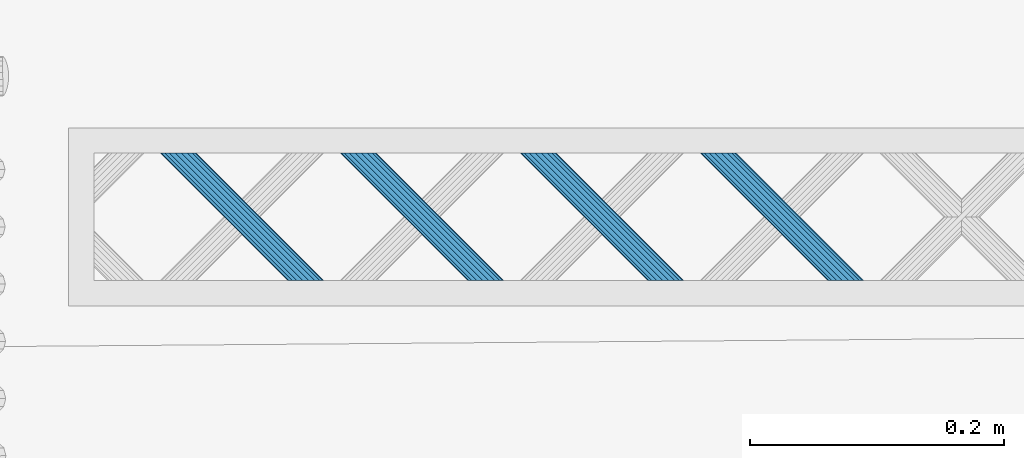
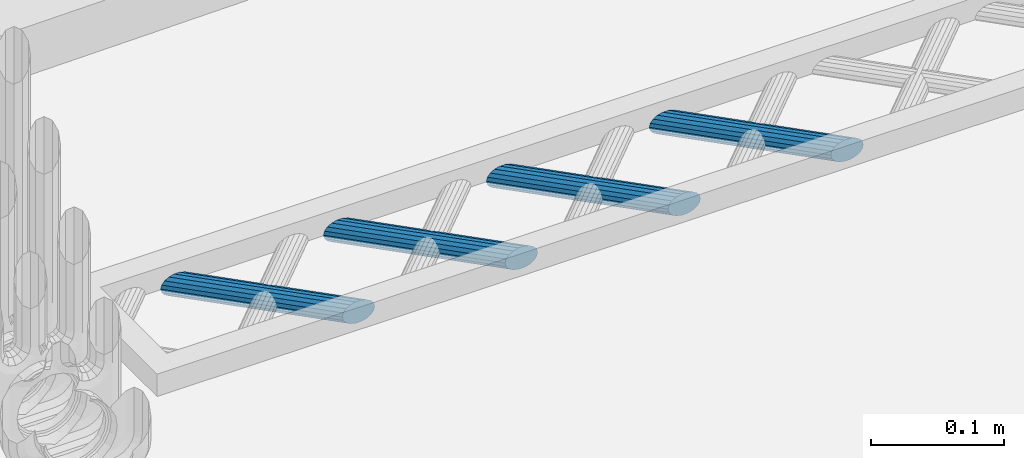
# One storey, part 66 of 133: 4 members, 1 element without a shape of its own.
"""IFC2X3 building model written with IfcOpenShell, lengths in centimetres."""

from ifc_helpers import new_model, entity, si_unit, converted_unit, direction, frame, origin, origin_with_axes, place, context, subcontext, project, spatial, faceted_brep, material, type_object, element, aggregate, save


model = new_model("IFC2X3")

# Units and contexts
model_context = context("Model", 3, precision=0.0001, world=origin(), true_north=direction((0.225632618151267, 0.974212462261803, 0.0)))
body_context = subcontext(model_context, "Body", "Model", "MODEL_VIEW")
ifc_project = project(units=[si_unit("LENGTHUNIT", "METRE", prefix="CENTI"), si_unit("AREAUNIT", "SQUARE_METRE", prefix="CENTI"), si_unit("VOLUMEUNIT", "CUBIC_METRE", prefix="CENTI"), converted_unit("PLANEANGLEUNIT", "DEGREE", entity("IfcRatioMeasure", 0.0174532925), si_unit("PLANEANGLEUNIT", "RADIAN"), dimensions=[0, 0, 0, 0, 0, 0, 0])], contexts=[model_context])

# Site, building, storey
site_placement = place(None, origin_with_axes())
site = spatial("IfcSite", under=ifc_project, at=site_placement, Name="Default Site", CompositionType="ELEMENT")
building_placement = place(site_placement, origin_with_axes())
building = spatial("IfcBuilding", under=site, at=building_placement, Name="Default Building", CompositionType="ELEMENT")
storey_placement = place(building_placement, frame((0.0, 0.0, -291.400371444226), z_axis=(0.0, 0.0, 1.0), x_axis=(1.0, 0.0, 0.0)))
storey = spatial("IfcBuildingStorey", under=building, at=storey_placement, Name="Rez-de-Jardin", CompositionType="ELEMENT", Elevation=-291.400371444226)

# Assembly, members
building_element_proxy_type = type_object("IfcBuildingElementProxyType", Name="Type Object", PredefinedType="NOTDEFINED")
assembly_placement = place(storey_placement, frame((-251.995147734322, 552.177521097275, 0.0), z_axis=(0.0, 1.0, -2.38697950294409e-15), x_axis=(1.0, 0.0, 0.0)))
assembly = element("IfcElementAssembly", 1, at=assembly_placement, inside=storey, type_object=building_element_proxy_type, Name="Panneau 92047", ObjectType="Precast panel", PredefinedType="USERDEFINED")
ifc_material = material(Name="Aluminium satiné")
member_1_placement = place(assembly_placement, frame((59.7421407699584, 0.342020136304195, 1.99999995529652), z_axis=(1.16937776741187e-15, 1.43218081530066e-15, -1.0), x_axis=(-0.632457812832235, -0.774594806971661, -1.84894192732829e-15)))
member_1 = element("IfcMember", 2, at=member_1_placement, material=ifc_material, Name="4294966743", context=body_context, shape_type="Brep", body=[
    faceted_brep([(5.55111512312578e-15, -1.66533453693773e-14, -1.97758476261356e-14), (-0.388290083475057, -1.66533453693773e-14, -1.90579218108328e-14), (-0.799166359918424, -0.150246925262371, -1.82982354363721e-14), (-1.18307325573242, -0.432621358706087, -1.75884138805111e-14), (-1.49370756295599, -0.813066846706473, -1.70140690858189e-14), (-1.69359804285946, -1.24569095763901, -1.66444831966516e-14), (-1.75863665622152, -1.67831484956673, -1.65242305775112e-14), (-1.68098087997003, -2.05876033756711, -1.66678115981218e-14), (-1.46999510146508, -2.34113750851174, -1.70579120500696e-14), (-1.15112683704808, -2.49138695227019, -1.76474809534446e-14), (-0.762836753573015, -2.49138695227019, -1.83654067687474e-14), (-0.351960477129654, -2.34114002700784, -1.91250931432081e-14), (0.0319464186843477, -2.05876559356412, -1.98349146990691e-14), (0.342580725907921, -1.67832010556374, -2.04092594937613e-14), (0.54247120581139, -1.24569599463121, -2.07788453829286e-14), (0.607509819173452, -0.813072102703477, -2.0899098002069e-14), (0.529854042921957, -0.432626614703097, -2.07555169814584e-14), (0.318868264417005, -0.150249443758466, -2.03654165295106e-14), (6.64344601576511, 7.59569816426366, -9.99999977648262), (6.85443179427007, 7.31332099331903, -9.99999977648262), (6.93208757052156, 6.93287550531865, -9.99999977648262), (6.86704707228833, 6.50024930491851, -9.99999977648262), (6.66715659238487, 6.06762519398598, -9.99999977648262), (6.35652605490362, 5.68718432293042, -9.99999977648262), (5.97261915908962, 5.40480988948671, -9.99999977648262), (5.56174288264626, 5.25456296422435, -9.99999977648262), (5.1734527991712, 5.25456296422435, -9.99999977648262), (4.8545845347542, 5.40481240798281, -9.99999977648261), (4.64359875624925, 5.68718957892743, -9.99999977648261), (4.56594297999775, 6.06763506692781, -9.99999977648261), (4.63098159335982, 6.50025895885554, -9.99999977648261), (4.83087207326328, 6.93288306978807, -9.99999977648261), (5.14150261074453, 7.31332394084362, -9.99999977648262), (5.52540950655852, 7.59569837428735, -9.99999977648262), (5.93628766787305, 7.74594760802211, -9.99999977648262), (6.32457775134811, 7.74594760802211, -9.99999977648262), (0.318868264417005, -0.150249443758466, -2.0122792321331e-14), (0.529854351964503, -0.432626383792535, 3.7431847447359e-07), (6.85443225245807, 7.31332133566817, -9.99999922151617), (6.64344616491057, 7.59569827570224, -9.99999959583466), (0.529854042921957, -0.432626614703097, -2.04697370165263e-14), (0.607510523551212, -0.813071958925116, 5.56859168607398e-07), (6.93208845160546, 6.93287568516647, -9.99999907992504), (6.85443197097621, 7.31332102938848, -9.99999963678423), (0.607509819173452, -0.813072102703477, -2.08166817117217e-14), (0.542470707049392, -1.24569591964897, -2.57365088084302e-07), (6.86704791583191, 6.50024917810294, -9.99999934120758), (6.93208771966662, 6.93287548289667, -9.99999969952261), (0.54247120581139, -1.24569599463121, -2.08166817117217e-14), (0.342580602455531, -1.67832004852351, -3.38953855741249e-08), (6.66715718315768, 6.06762492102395, -9.99999961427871), (6.86704778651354, 6.50024897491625, -9.99999958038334), (0.342580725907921, -1.67832010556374, -2.0122792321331e-14), (0.0319464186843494, -2.05876559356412, -1.94289029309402e-14), (6.66715659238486, 6.06762519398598, -9.99999977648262), (0.0319464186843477, -2.05876559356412, -1.94289029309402e-14), (-0.351960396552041, -2.34114013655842, -3.3895384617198e-08), (5.97261960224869, 5.40480928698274, -9.99999996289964), (6.35652641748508, 5.68718382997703, -9.99999992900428), (-0.351960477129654, -2.34114002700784, -1.90819582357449e-14), (-0.762836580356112, -2.49138742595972, -2.57365085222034e-07), (5.56174341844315, 5.25456149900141, -10.0000005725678), (5.97261952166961, 5.40480889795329, -10.0000003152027), (-0.762836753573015, -2.49138695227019, -1.83880688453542e-14), (-1.15112683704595, -2.49138623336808, 5.56859171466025e-07), (5.17345279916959, 5.25456242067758, -10.0000001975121), (5.56174288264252, 5.25456170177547, -10.0000007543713), (-1.15112683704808, -2.49138695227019, -1.73472347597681e-14), (-1.46999493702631, -2.34113715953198, 3.74318477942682e-07), (4.85458414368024, 5.40481157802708, -10.0000006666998), (5.17345224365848, 5.25456178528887, -10.0000010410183), (-1.46999510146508, -2.34113750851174, -1.66533453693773e-14), (-1.68098118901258, -2.05876056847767, -3.74318511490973e-07), (4.6435974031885, 5.68718856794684, -10.0000014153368), (4.85458349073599, 5.40481162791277, -10.0000010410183), (-1.68098087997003, -2.05876033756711, -1.66533453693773e-14), (-1.75863736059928, -1.67831499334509, -5.56859205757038e-07), (4.56594103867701, 6.06763467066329, -10.0000013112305), (4.64359751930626, 5.68718932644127, -10.0000007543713), (-1.75863665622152, -1.67831484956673, -1.6306400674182e-14), (-1.69359754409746, -1.24569103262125, 2.5736504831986e-07), (4.63098104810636, 6.50025904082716, -10.0000000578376), (4.5659419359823, 6.06763522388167, -10.0000003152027), (-1.69359804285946, -1.24569095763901, -1.6306400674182e-14), (-1.4937074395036, -0.813066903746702, 3.38953504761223e-08), (4.83087164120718, 6.93288326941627, -9.99999989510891), (4.63098103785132, 6.50025921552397, -9.99999992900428), (-1.49370756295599, -0.813066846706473, -1.66533453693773e-14), (-1.18307325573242, -0.432621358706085, -1.73472347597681e-14), (5.14150261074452, 7.31332394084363, -9.99999977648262), (4.83087207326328, 6.93288306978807, -9.99999977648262), (-1.18307325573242, -0.432621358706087, -1.73472347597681e-14), (-0.799166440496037, -0.150246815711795, 3.38953477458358e-08), (5.52540895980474, 7.59569911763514, -9.99999954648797), (5.14150214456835, 7.31332457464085, -9.99999958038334), (-0.799166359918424, -0.150246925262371, -1.80411241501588e-14), (-0.388290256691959, 4.73689511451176e-07, 2.57365046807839e-07), (5.93628744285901, 7.74594822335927, -9.99999944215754), (5.52540904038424, 7.59569964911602, -9.99999908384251), (-0.388290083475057, -1.66533453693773e-14, -1.87350135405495e-14), (-2.12407422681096e-12, -7.18902127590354e-07, -5.56859208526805e-07), (6.32457775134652, 7.74594706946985, -10.0000001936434), (5.93628766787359, 7.74594778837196, -9.99999963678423), (0.318868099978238, -0.150249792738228, -3.74318515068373e-07), (6.64344593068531, 7.59569798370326, -9.99999997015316), (6.32457783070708, 7.74594777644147, -9.99999959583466)], [[[0, 1, 2, 3, 4, 5, 6, 7, 8, 9, 10, 11, 12, 13, 14, 15, 16, 17]], [[18, 19, 20, 21, 22, 23, 24, 25, 26, 27, 28, 29, 30, 31, 32, 33, 34, 35]], [[36, 37, 38, 39]], [[40, 41, 42, 43]], [[44, 45, 46, 47]], [[48, 49, 50, 51]], [[52, 53, 23, 54]], [[55, 56, 57, 58]], [[59, 60, 61, 62]], [[63, 64, 65, 66]], [[67, 68, 69, 70]], [[71, 72, 73, 74]], [[75, 76, 77, 78]], [[79, 80, 81, 82]], [[83, 84, 85, 86]], [[87, 88, 89, 90]], [[91, 92, 93, 94]], [[95, 96, 97, 98]], [[99, 100, 101, 102]], [[0, 103, 104, 105]]]),
])
member_2_placement = place(assembly_placement, frame((45.6000059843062, 0.342020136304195, 1.99999995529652), z_axis=(1.16937776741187e-15, 1.43218081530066e-15, -1.0), x_axis=(-0.632457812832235, -0.774594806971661, -1.84894192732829e-15)))
member_2 = element("IfcMember", 3, at=member_2_placement, material=ifc_material, Name="4294966742", context=body_context, shape_type="Brep", body=[
    faceted_brep([(1.11022302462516e-14, 6.10622663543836e-14, 5.27355936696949e-14), (-0.388290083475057, 6.10622663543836e-14, 5.34535194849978e-14), (-0.799166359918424, -0.150246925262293, 5.42132058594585e-14), (-1.18307325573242, -0.432621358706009, 5.49230274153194e-14), (-1.49370567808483, -0.813064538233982, 5.54973687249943e-14), (-1.6935961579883, -1.24568864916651, 5.58669546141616e-14), (-1.75863665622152, -1.67831484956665, 5.59872107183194e-14), (-1.68097899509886, -2.05875802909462, 5.58436262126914e-14), (-1.46999321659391, -2.34113520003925, 5.54535257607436e-14), (-1.15112495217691, -2.4913846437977, 5.48639568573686e-14), (-0.762836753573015, -2.49138695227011, 5.41460345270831e-14), (-0.351958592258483, -2.34113771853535, 5.33863446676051e-14), (0.0319483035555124, -2.05876328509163, 5.26765231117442e-14), (0.342580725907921, -1.67832010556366, 5.21021818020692e-14), (0.54247120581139, -1.24569599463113, 5.17325959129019e-14), (0.607509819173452, -0.813072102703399, 5.16123432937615e-14), (0.529854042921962, -0.432626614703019, 5.17559243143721e-14), (0.318868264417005, -0.150249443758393, 5.21460247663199e-14), (6.64344601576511, 7.59569816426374, -9.99999977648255), (6.85443179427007, 7.31332099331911, -9.99999977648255), (6.93208945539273, 6.93287781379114, -9.99999977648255), (6.8670489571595, 6.500251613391, -9.99999977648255), (6.66715847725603, 6.06762750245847, -9.99999977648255), (6.35652605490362, 5.6871843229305, -9.99999977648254), (5.97261915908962, 5.40480988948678, -9.99999977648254), (5.5617409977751, 5.25456065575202, -9.99999977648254), (5.17345279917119, 5.25456296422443, -9.99999977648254), (4.8545845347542, 5.40481240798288, -9.99999977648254), (4.64359875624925, 5.68718957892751, -9.99999977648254), (4.56594109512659, 6.06763275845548, -9.99999977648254), (4.63098159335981, 6.50025895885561, -9.99999977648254), (4.83087207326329, 6.93288306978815, -9.99999977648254), (5.14150449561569, 7.31332624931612, -9.99999977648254), (5.52541139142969, 7.59570068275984, -9.99999977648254), (5.93628955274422, 7.7459499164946, -9.99999977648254), (6.32457775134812, 7.74594760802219, -9.99999977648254), (0.318868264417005, -0.150249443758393, 5.20417042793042e-14), (0.529854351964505, -0.43262638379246, 3.74318542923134e-07), (6.85443225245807, 7.31332133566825, -9.9999992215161), (6.64344616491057, 7.59569827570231, -9.99999959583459), (0.529854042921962, -0.432626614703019, 5.20417042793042e-14), (0.607510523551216, -0.813071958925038, 5.56859243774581e-07), (6.93208892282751, 6.93287770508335, -10.0000001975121), (6.85443197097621, 7.31332102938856, -9.99999963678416), (0.607509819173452, -0.813072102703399, 5.16947595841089e-14), (0.542470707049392, -1.24569591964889, -2.57365015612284e-07), (6.86704860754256, 6.50025166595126, -9.9999999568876), (6.93208841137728, 6.932877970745, -10.0000003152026), (0.54247120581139, -1.24569599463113, 5.16947595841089e-14), (0.342580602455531, -1.67832004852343, -3.38953134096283e-08), (6.66715843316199, 6.06762752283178, -9.9999997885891), (6.86704903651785, 6.50025157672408, -9.99999975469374), (0.342580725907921, -1.67832010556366, 5.20417042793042e-14), (0.0319483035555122, -2.05876328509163, 5.27355936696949e-14), (6.35652605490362, 5.6871843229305, -9.99999977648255), (0.0319483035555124, -2.05876328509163, 5.27355936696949e-14), (-0.351958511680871, -2.34113782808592, -3.38953122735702e-08), (5.97261918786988, 5.40480985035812, -9.9999997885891), (6.35652600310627, 5.68718439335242, -9.99999975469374), (-0.351958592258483, -2.34113771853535, 5.34294830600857e-14), (-0.762836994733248, -2.4913862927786, 3.58315082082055e-07), (5.56174070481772, 5.25456145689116, -9.9999993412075), (5.97261910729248, 5.40481003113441, -9.99999969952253), (-0.762836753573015, -2.49138695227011, 5.41233724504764e-14), (-1.15112495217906, -2.49138536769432, -5.60727864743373e-07), (5.17345279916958, 5.25456242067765, -10.0000001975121), (5.56174099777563, 5.25456083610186, -9.99999963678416), (-1.15112495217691, -2.4913846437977, 5.51642065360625e-14), (-1.46999305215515, -2.34113485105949, 3.7431854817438e-07), (4.85458477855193, 5.404812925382, -9.9999992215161), (5.17345287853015, 5.25456313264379, -9.99999959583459), (-1.46999321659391, -2.34113520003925, 5.55111512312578e-14), (-1.68097930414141, -2.05875826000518, -3.74318437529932e-07), (4.64359859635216, 5.68718945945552, -9.99999997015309), (4.85458468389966, 5.40481251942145, -9.99999959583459), (-1.68097899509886, -2.05875802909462, 5.58580959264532e-14), (-1.75863594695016, -1.6783147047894, 5.60727977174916e-07), (4.56594198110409, 6.06763293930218, -9.99999907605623), (4.64359893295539, 5.68718961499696, -9.99999963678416), (-1.75863665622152, -1.67831484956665, 5.62050406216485e-14), (-1.69359685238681, -1.24568854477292, -3.5831497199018e-07), (4.63098104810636, 6.50025904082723, -10.0000000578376), (4.56594124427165, 6.0676327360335, -9.99999969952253), (-1.6935961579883, -1.24568864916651, 5.62050406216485e-14), (-1.49370555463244, -0.813064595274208, 3.38954210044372e-08), (4.83087227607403, 6.93288297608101, -9.99999972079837), (4.63098167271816, 6.5002589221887, -9.99999975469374), (-1.49370567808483, -0.813064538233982, 5.55111512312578e-14), (-1.18307325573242, -0.432621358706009, 5.48172618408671e-14), (5.14150449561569, 7.31332624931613, -9.99999977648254), (4.83087207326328, 6.93288306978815, -9.99999977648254), (-0.799166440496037, -0.150246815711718, 3.38954202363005e-08), (5.52541125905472, 7.59570086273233, -9.99999972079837), (5.14150444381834, 7.31332631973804, -9.99999975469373), (-0.799166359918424, -0.150246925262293, 5.44703171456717e-14), (-0.388290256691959, 4.73689589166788e-07, 2.57365119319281e-07), (5.93628974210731, 7.74594939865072, -10.0000000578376), (5.52541133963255, 7.59570082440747, -9.99999969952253), (-0.388290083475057, 6.10622663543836e-14, 5.3776427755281e-14), (-2.11852311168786e-12, -7.18902049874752e-07, -5.56859136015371e-07), (6.32457775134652, 7.74594706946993, -10.0000001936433), (5.93628955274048, 7.74594865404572, -10.0000007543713), (0.31886809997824, -0.150249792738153, -3.74318439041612e-07), (6.64344593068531, 7.59569798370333, -9.99999997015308), (6.32457783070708, 7.74594777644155, -9.99999959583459)], [[[0, 1, 2, 3, 4, 5, 6, 7, 8, 9, 10, 11, 12, 13, 14, 15, 16, 17]], [[18, 19, 20, 21, 22, 23, 24, 25, 26, 27, 28, 29, 30, 31, 32, 33, 34, 35]], [[36, 37, 38, 39]], [[40, 41, 42, 43]], [[44, 45, 46, 47]], [[48, 49, 50, 51]], [[52, 53, 54, 22]], [[55, 56, 57, 58]], [[59, 60, 61, 62]], [[63, 64, 65, 66]], [[67, 68, 69, 70]], [[71, 72, 73, 74]], [[75, 76, 77, 78]], [[79, 80, 81, 82]], [[83, 84, 85, 86]], [[87, 88, 89, 90]], [[88, 91, 92, 93]], [[94, 95, 96, 97]], [[98, 99, 100, 101]], [[0, 102, 103, 104]]]),
])
member_3_placement = place(assembly_placement, frame((31.4578711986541, 0.342020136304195, 1.99999995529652), z_axis=(1.16937492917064e-15, 1.4321947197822e-15, -1.0), x_axis=(-0.632453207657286, -0.774598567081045, -1.84895090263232e-15)))
member_3 = element("IfcMember", 4, at=member_3_placement, material=ifc_material, Name="4294966741", context=body_context, shape_type="Brep", body=[
    faceted_brep([(5.55111512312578e-15, -5.55111512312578e-15, 1.25940924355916e-13), (-0.388288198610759, -5.55111512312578e-15, 1.26658850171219e-13), (-0.799165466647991, -0.150251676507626, 1.27418542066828e-13), (-1.18307068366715, -0.432628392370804, 1.2812836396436e-13), (-1.49370084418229, -0.813073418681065, 1.2870270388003e-13), (-1.6935887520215, -1.24569871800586, 1.29072286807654e-13), (-1.75862479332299, -1.67832299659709, 1.29192535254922e-13), (-1.68096675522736, -2.05876802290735, 1.29048949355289e-13), (-1.46997929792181, -2.34114393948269, 1.2865884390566e-13), (-1.15111014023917, -2.49139148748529, 1.28069270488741e-13), (-0.762820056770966, -2.49138917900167, 1.27351341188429e-13), (-0.351944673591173, -2.34113981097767, 1.26591652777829e-13), (0.0319605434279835, -2.05876309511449, 1.25881830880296e-13), (0.342590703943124, -1.67831806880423, 1.25307490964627e-13), (0.542478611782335, -1.24569276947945, 1.24937908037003e-13), (0.607516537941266, -0.813066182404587, 1.24817656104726e-13), (0.5298566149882, -0.432623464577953, 1.24961245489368e-13), (0.318869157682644, -0.150247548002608, 1.25351350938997e-13), (6.643400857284, 7.59573766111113, -9.99999977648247), (6.85438925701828, 7.31336289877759, -9.99999977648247), (6.93204823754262, 6.93291902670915, -9.99999977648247), (6.86701125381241, 6.5002935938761, -9.99999977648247), (6.6671233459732, 6.06766829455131, -9.99999977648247), (6.35649318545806, 5.68722326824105, -9.99999977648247), (5.97258702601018, 5.40484539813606, -9.99999977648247), (5.56171164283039, 5.25459603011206, -9.99999977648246), (5.17342250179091, 5.25459487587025, -9.99999977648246), (4.85455334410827, 5.40484242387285, -9.99999977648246), (4.64356588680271, 5.6872183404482, -9.99999977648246), (4.56590690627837, 6.06766221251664, -9.99999977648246), (4.63094294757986, 6.50028649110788, -9.99999977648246), (4.83083179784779, 6.93291294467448, -9.99999977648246), (5.14146195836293, 7.31335797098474, -9.99999977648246), (5.52536717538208, 7.59573468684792, -9.99999977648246), (5.9362435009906, 7.74598520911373, -9.99999977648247), (6.32453264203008, 7.74598636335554, -9.99999977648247), (0.318869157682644, -0.150247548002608, 1.25593979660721e-13), (0.529856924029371, -0.432623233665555, 3.74318617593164e-07), (6.85438911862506, 7.3133627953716, -9.99999994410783), (6.6434010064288, 7.59573777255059, -9.99999959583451), (0.5298566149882, -0.432623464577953, 1.25247034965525e-13), (0.607515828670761, -0.813066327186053, -5.60727797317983e-07), (6.93204770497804, 6.93291891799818, -10.000000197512), (6.8543887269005, 7.31336279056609, -10.0000001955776), (0.607516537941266, -0.813066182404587, 1.2490009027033e-13), (0.542479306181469, -1.24569287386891, 3.58315154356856e-07), (6.86701150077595, 6.50029355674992, -9.99999964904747), (6.93204838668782, 6.93291900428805, -9.99999969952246), (0.542478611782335, -1.24569276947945, 1.2490009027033e-13), (0.342590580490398, -1.67831801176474, -3.38952392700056e-08), (6.66712298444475, 6.06766846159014, -9.99999987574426), (6.86701101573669, 6.50029370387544, -9.99999984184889), (0.342590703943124, -1.67831806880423, 1.25593979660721e-13), (0.0319605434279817, -2.05876309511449, 1.25940924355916e-13), (0.0319605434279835, -2.05876309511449, 1.25940924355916e-13), (-0.351944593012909, -2.34113992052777, -3.3895238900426e-08), (5.97258705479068, 5.40484535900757, -9.99999978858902), (6.35649334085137, 5.68722305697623, -9.99999984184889), (-0.351944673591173, -2.34113981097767, 1.26634813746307e-13), (-0.762819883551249, -2.49138965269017, -2.57364936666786e-07), (5.56171176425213, 5.25459569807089, -9.99999995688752), (5.9725869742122, 5.40484553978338, -9.99999969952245), (-0.762820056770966, -2.49138917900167, 1.27328703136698e-13), (-1.15111014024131, -2.49139076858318, 5.56859313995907e-07), (5.17342250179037, 5.25459505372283, -9.99999963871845), (5.56171164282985, 5.2545962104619, -9.99999963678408), (-1.15111014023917, -2.49139148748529, 1.28369537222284e-13), (-1.46997913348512, -2.34114359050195, 3.74318624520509e-07), (4.85455327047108, 5.40484226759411, -9.99999994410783), (5.17342226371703, 5.25459437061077, -10.0000003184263), (-1.46997929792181, -2.34114393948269, 1.28716481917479e-13), (-1.68096706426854, -2.05876825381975, -3.74318364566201e-07), (4.64356513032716, 5.68721777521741, -10.0000006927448), (4.85455289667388, 5.40484208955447, -10.0000003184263), (-1.68096675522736, -2.05876802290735, 1.29063426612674e-13), (-1.75862549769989, -1.67832314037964, -5.56859058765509e-07), (4.56590637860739, 6.0676621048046, -10.0000001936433), (4.64356535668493, 5.68721823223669, -10.0000001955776), (-1.75862479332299, -1.67832299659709, 1.2941037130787e-13), (-1.69358825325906, -1.24569879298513, 2.57365194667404e-07), (4.63094359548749, 6.50028639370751, -9.99999944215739), (4.56590705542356, 6.06766219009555, -9.99999969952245), (-1.6935887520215, -1.24569871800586, 1.2941037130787e-13), (-1.49370072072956, -0.813073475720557, 3.38954941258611e-08), (4.83083168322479, 6.93291299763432, -9.99999980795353), (4.63094302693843, 6.50028645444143, -9.99999975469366), (-1.49370084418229, -0.813073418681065, 1.28716481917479e-13), (-1.18307068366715, -0.432628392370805, 1.28369537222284e-13), (-1.18307068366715, -0.432628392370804, 1.28369537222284e-13), (-0.799165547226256, -0.150251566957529, 3.38954938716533e-08), (5.52536725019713, 7.5957345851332, -9.99999980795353), (5.14146211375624, 7.31335775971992, -9.99999984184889), (-0.799165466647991, -0.150251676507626, 1.27675647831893e-13), (-0.388287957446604, -6.59490087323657e-07, -3.58314902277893e-07), (5.93624369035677, 7.74598469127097, -10.0000000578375), (5.52536733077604, 7.59573426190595, -10.0000000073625), (-0.388288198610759, -5.55111512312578e-15, 1.26981758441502e-13), (-2.15377828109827e-12, 7.2389661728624e-07, 5.60728047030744e-07), (6.32453264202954, 7.74598654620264, -9.99999963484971), (5.93624350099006, 7.74598538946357, -9.99999963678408), (0.318868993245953, -0.150247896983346, -3.74318366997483e-07), (6.64340077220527, 7.59573748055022, -9.99999997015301), (6.3245324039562, 7.74598585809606, -10.0000003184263)], [[[0, 1, 2, 3, 4, 5, 6, 7, 8, 9, 10, 11, 12, 13, 14, 15, 16, 17]], [[18, 19, 20, 21, 22, 23, 24, 25, 26, 27, 28, 29, 30, 31, 32, 33, 34, 35]], [[36, 37, 38, 39]], [[40, 41, 42, 43]], [[44, 45, 46, 47]], [[48, 49, 50, 51]], [[52, 53, 23, 22]], [[54, 55, 56, 57]], [[58, 59, 60, 61]], [[62, 63, 64, 65]], [[66, 67, 68, 69]], [[70, 71, 72, 73]], [[74, 75, 76, 77]], [[78, 79, 80, 81]], [[82, 83, 84, 85]], [[86, 87, 32, 31]], [[88, 89, 90, 91]], [[92, 93, 94, 95]], [[96, 97, 98, 99]], [[0, 100, 101, 102]]]),
])
member_4_placement = place(assembly_placement, frame((17.3157349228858, 0.342020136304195, 1.99999995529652), z_axis=(1.16937634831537e-15, 1.43218776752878e-15, -1.0), x_axis=(-0.632455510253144, -0.774596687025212, -1.84894641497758e-15)))
member_4 = element("IfcMember", 5, at=member_4_placement, material=ifc_material, Name="4294966740", context=body_context, shape_type="Brep", body=[
    faceted_brep([(-3.19189119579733e-14, 2.22044604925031e-14, 1.94289029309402e-14), (-0.388289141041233, 2.22044604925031e-14, 2.01468287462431e-14), (-0.799165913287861, -0.150249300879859, 2.09065178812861e-14), (-1.18307196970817, -0.43262487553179, 2.16163396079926e-14), (-1.49370326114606, -0.813068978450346, 2.21906802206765e-14), (-1.69359245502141, -1.24569368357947, 2.25602646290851e-14), (-1.75863072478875, -1.67831892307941, 2.26805169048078e-14), (-1.68097287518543, -2.05876302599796, 2.25369317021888e-14), (-1.46998625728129, -2.34113956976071, 2.21468287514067e-14), (-1.15111754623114, -2.4913880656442, 2.1557257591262e-14), (-0.762828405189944, -2.4913880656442, 2.08393317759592e-14), (-0.351951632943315, -2.34113876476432, 2.00796426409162e-14), (0.0319544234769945, -2.05876319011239, 1.93698209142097e-14), (0.342585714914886, -1.67831908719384, 1.87954803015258e-14), (0.54247490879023, -1.24569438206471, 1.84258958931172e-14), (0.607513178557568, -0.813069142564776, 1.83056436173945e-14), (0.529855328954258, -0.432625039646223, 1.84492288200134e-14), (0.31886871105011, -0.150248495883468, 1.88393317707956e-14), (6.64342343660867, 7.59571791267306, -9.99999977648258), (6.8544105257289, 7.31334194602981, -9.99999977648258), (6.93206837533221, 6.93289784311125, -9.99999977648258), (6.86703010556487, 6.50027260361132, -9.99999977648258), (6.66714044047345, 6.06764732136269, -9.99999977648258), (6.35650914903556, 5.68720321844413, -9.99999977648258), (5.97260309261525, 5.4048276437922, -9.99999977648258), (5.56172632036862, 5.25457834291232, -9.99999977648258), (5.17343717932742, 5.25457834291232, -9.99999977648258), (4.85456893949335, 5.40482741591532, -9.99999977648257), (4.64358185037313, 5.68720338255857, -9.99999977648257), (4.56592400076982, 6.06764748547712, -9.99999977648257), (4.63096227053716, 6.50027272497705, -9.99999977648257), (4.8308514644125, 6.93289743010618, -9.99999977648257), (5.14148275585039, 7.31334153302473, -9.99999977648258), (5.52538928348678, 7.59571768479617, -9.99999977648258), (5.93626605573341, 7.74596698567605, -9.99999977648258), (6.32455519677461, 7.74596698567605, -9.99999977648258), (0.31886871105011, -0.150248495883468, 1.90819582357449e-14), (0.529855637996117, -0.432624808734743, 3.74318511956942e-07), (6.85441068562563, 7.31334206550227, -9.99999958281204), (6.6434235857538, 7.59571802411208, -9.99999959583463), (0.529855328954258, -0.432625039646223, 1.87350135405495e-14), (0.607513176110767, -0.813069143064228, -1.93434787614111e-09), (6.93206819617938, 6.93289780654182, -9.99999991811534), (6.85441034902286, 7.31334190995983, -9.99999991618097), (0.607513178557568, -0.813069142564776, 1.83880688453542e-14), (0.542475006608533, -1.24569439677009, 5.0475000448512e-08), (6.86703005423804, 6.50027261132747, -9.99999980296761), (6.93206822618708, 6.93289786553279, -9.99999985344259), (0.54247490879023, -1.24569438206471, 1.83880688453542e-14), (0.342585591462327, -1.67831903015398, -3.38953464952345e-08), (6.66714039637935, 6.06764734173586, -9.99999978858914), (6.8670300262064, 6.50027264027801, -9.99999979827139), (0.342585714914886, -1.67831908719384, 1.90819582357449e-14), (0.0319544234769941, -2.05876319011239, 1.97758476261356e-14), (6.35650914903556, 5.68720321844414, -9.99999977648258), (0.0319544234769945, -2.05876319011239, 1.97758476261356e-14), (-0.351951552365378, -2.34113887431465, -3.38953448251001e-08), (5.97260312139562, 5.40482760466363, -9.99999978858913), (6.356509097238, 5.68720328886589, -9.99999975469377), (-0.351951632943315, -2.34113876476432, 2.0122792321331e-14), (-0.762828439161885, -2.49138797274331, 5.04750015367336e-08), (5.56172623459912, 5.25457857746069, -9.99999964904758), (5.97260304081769, 5.40482778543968, -9.99999969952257), (-0.762828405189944, -2.4913880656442, 2.08166817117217e-14), (-1.15111754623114, -2.49138806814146, -1.93434443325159e-09), (5.17343717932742, 5.25457852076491, -9.99999963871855), (5.56172632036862, 5.25457852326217, -9.99999963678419), (-1.15111754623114, -2.4913880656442, 2.18575157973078e-14), (-1.46998609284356, -2.34113922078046, 3.74318516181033e-07), (4.85456902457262, 5.40482759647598, -9.99999958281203), (5.17343725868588, 5.25457851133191, -9.99999959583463), (-1.46998625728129, -2.34113956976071, 2.25514051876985e-14), (-1.68097318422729, -2.05876325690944, -3.74318471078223e-07), (4.6435816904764, 5.68720326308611, -9.99999997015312), (4.85456879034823, 5.4048273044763, -9.99999995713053), (-1.68097287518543, -2.05876302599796, 2.25514051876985e-14), (-1.75863072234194, -1.67831892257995, 1.93439067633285e-09), (4.56592417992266, 6.06764752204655, -9.99999963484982), (4.64358202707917, 5.68720341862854, -9.99999963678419), (-1.75863072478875, -1.67831892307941, 2.28983498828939e-14), (-1.69359255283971, -1.24569366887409, -5.04749586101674e-08), (4.63096232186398, 6.5002727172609, -9.99999974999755), (4.56592414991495, 6.06764746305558, -9.99999969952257), (-1.69359245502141, -1.24569368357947, 2.28983498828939e-14), (-1.49370313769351, -0.813069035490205, 3.38953881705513e-08), (4.83085166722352, 6.93289733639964, -9.9999997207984), (4.63096234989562, 6.50027268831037, -9.99999975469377), (-1.49370326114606, -0.813068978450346, 2.25514051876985e-14), (-1.18307196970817, -0.432624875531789, 2.18575157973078e-14), (5.14148275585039, 7.31334153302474, -9.99999977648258), (-1.18307196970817, -0.43262487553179, 2.18575157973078e-14), (-0.799165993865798, -0.150249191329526, 3.38953862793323e-08), (5.5253892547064, 7.59571772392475, -9.99999976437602), (5.14148270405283, 7.3133416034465, -9.99999975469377), (-0.799165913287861, -0.150249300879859, 2.1163626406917e-14), (-0.388289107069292, -9.29008686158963e-08, -5.04749603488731e-08), (5.93626614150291, 7.74596675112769, -9.99999990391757), (5.52538933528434, 7.59571754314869, -9.99999985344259), (-0.388289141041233, 2.22044604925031e-14, 2.04697370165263e-14), (-3.19446094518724e-14, 2.4972781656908e-09, 1.93438560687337e-09), (6.32455519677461, 7.74596680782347, -9.9999999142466), (5.93626605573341, 7.74596680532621, -9.99999991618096), (0.318868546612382, -0.150248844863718, -3.74318474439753e-07), (6.64342335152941, 7.5957177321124, -9.99999997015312), (6.32455511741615, 7.74596681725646, -9.99999995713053)], [[[0, 1, 2, 3, 4, 5, 6, 7, 8, 9, 10, 11, 12, 13, 14, 15, 16, 17]], [[18, 19, 20, 21, 22, 23, 24, 25, 26, 27, 28, 29, 30, 31, 32, 33, 34, 35]], [[36, 37, 38, 39]], [[40, 41, 42, 43]], [[44, 45, 46, 47]], [[48, 49, 50, 51]], [[52, 53, 54, 22]], [[55, 56, 57, 58]], [[59, 60, 61, 62]], [[63, 64, 65, 66]], [[67, 68, 69, 70]], [[71, 72, 73, 74]], [[75, 76, 77, 78]], [[79, 80, 81, 82]], [[83, 84, 85, 86]], [[87, 88, 89, 31]], [[90, 91, 92, 93]], [[94, 95, 96, 97]], [[98, 99, 100, 101]], [[0, 102, 103, 104]]]),
])
aggregate(assembly, [member_1, member_2, member_3, member_4])

save(model, "model.ifc")
